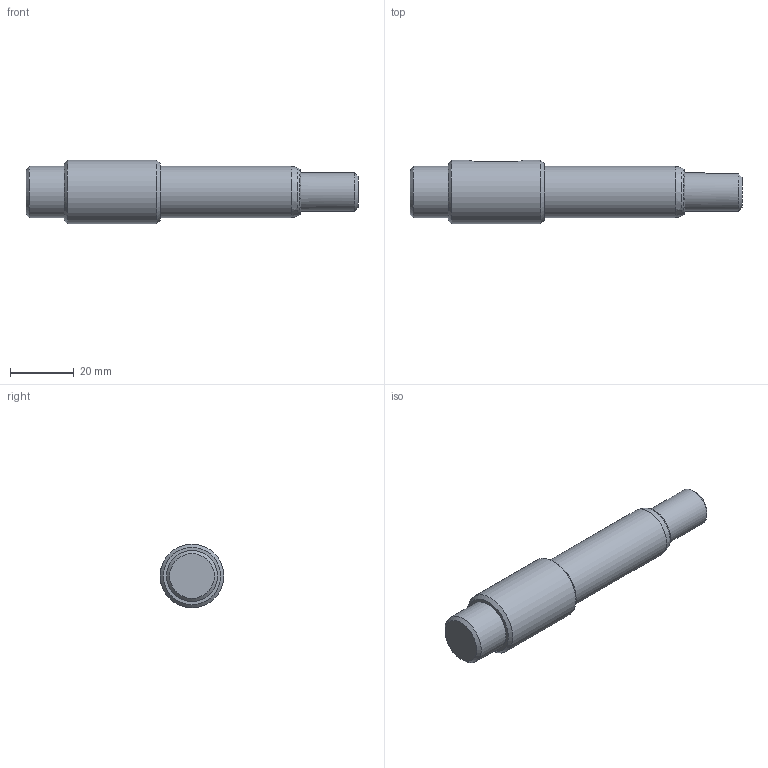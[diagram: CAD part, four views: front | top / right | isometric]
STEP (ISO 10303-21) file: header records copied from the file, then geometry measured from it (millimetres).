
FILE_DESCRIPTION(/* description */ (''),/* implementation_level */ '2;1');
FILE_NAME(/* name */ '',/* time_stamp */ '2026-09-29T15:29:37+09:00',/* author */ ('jhkim'),/* organization */ (''),/* preprocessor_version */ 'ST-DEVELOPER v20.1',/* originating_system */ 'Autodesk Inventor 2027',/* authorisation */ '');
FILE_SCHEMA (('AUTOMOTIVE_DESIGN { 1 0 10303 214 3 1 1 }'));
Length unit declared in the file: millimetre
Products named in the file (1): 구동 축
Bounding box: 104 x 20 x 20 mm (x, y, z)
Volume: 22125 mm3; surface area: 6012.9 mm2
Topology: 1 solids, 1 shells, 25 faces, 60 edges, 41 vertices
Faces by surface type: plane 11, cylinder 7, cone 5, bspline 1, torus 1
Full cylindrical faces by diameter (mm): 12 x1, 16 x2, 20 x1
Entity records: 850 total; most frequent: CARTESIAN_POINT 211, DIRECTION 129, ORIENTED_EDGE 120, EDGE_CURVE 60, AXIS2_PLACEMENT_3D 52, VERTEX_POINT 41, EDGE_LOOP 29, CIRCLE 27
